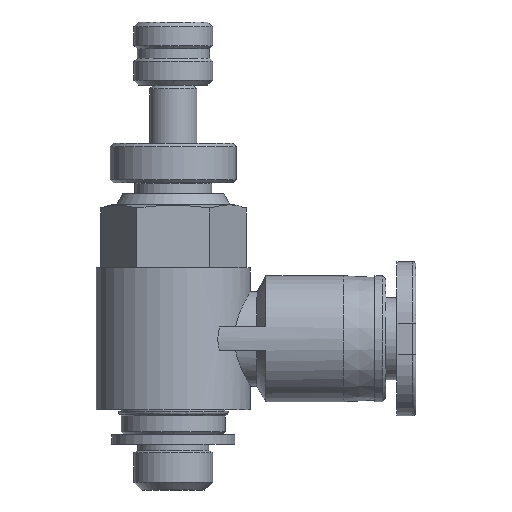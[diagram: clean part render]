
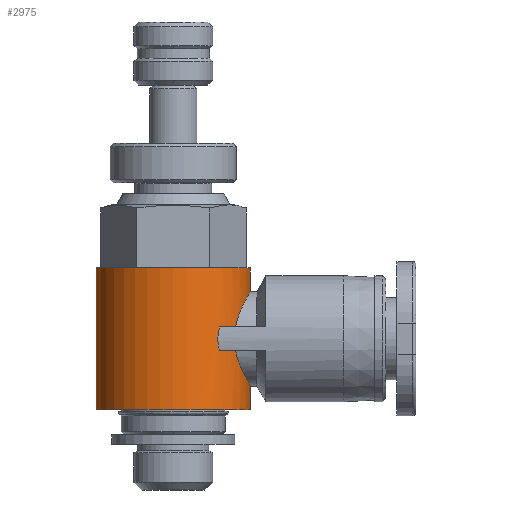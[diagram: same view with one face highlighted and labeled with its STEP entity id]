
A CAD part, front view. The second image highlights one B-rep face of the part: STEP entity #2975.
In plain terms, the highlighted cylindrical face has radius 4.9 mm (diameter 9.8 mm), a partial arc.
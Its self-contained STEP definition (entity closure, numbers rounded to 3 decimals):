
#57 = CARTESIAN_POINT ( 'NONE',  ( 4.856, -0.673, 6.672 ) ) ;
#146 = CARTESIAN_POINT ( 'NONE',  ( 4.83, -0.84, 12.485 ) ) ;
#161 = AXIS2_PLACEMENT_3D ( 'NONE', #1070, #1905, #287 ) ;
#166 = CARTESIAN_POINT ( 'NONE',  ( 4.43, -2.112, 11.756 ) ) ;
#203 = CARTESIAN_POINT ( 'NONE',  ( 4.483, -1.984, 7.344 ) ) ;
#238 = CARTESIAN_POINT ( 'NONE',  ( 4.891, -0.341, 6.615 ) ) ;
#284 = ORIENTED_EDGE ( 'NONE', *, *, #1775, .T. ) ;
#287 = DIRECTION ( 'NONE',  ( 1., 0., 0. ) ) ;
#293 = CARTESIAN_POINT ( 'NONE',  ( 4.9, 0., 6.6 ) ) ;
#310 = CARTESIAN_POINT ( 'NONE',  ( 4.9, -0.172, 6.6 ) ) ;
#311 = DIRECTION ( 'NONE',  ( 0., 0., 1. ) ) ;
#337 = CARTESIAN_POINT ( 'NONE',  ( -4.9, 0., 5.1 ) ) ;
#384 = EDGE_CURVE ( 'NONE', #634, #2983, #488, .T. ) ;
#433 = CARTESIAN_POINT ( 'NONE',  ( 4.891, -0.341, 12.585 ) ) ;
#449 = VERTEX_POINT ( 'NONE', #694 ) ;
#469 = ORIENTED_EDGE ( 'NONE', *, *, #1866, .T. ) ;
#470 = EDGE_CURVE ( 'NONE', #1180, #635, #2212, .T. ) ;
#488 = CIRCLE ( 'NONE', #2030, 4.9 ) ;
#518 = CARTESIAN_POINT ( 'NONE',  ( 2.928, -3.929, 8.85 ) ) ;
#519 = ORIENTED_EDGE ( 'NONE', *, *, #2734, .T. ) ;
#574 = CARTESIAN_POINT ( 'NONE',  ( 4.726, -1.304, 6.893 ) ) ;
#580 = LINE ( 'NONE', #1066, #2584 ) ;
#634 = VERTEX_POINT ( 'NONE', #1692 ) ;
#635 = VERTEX_POINT ( 'NONE', #1984 ) ;
#694 = CARTESIAN_POINT ( 'NONE',  ( 4.9, 0., 6.6 ) ) ;
#738 = CARTESIAN_POINT ( 'NONE',  ( 4.318, -2.319, 7.69 ) ) ;
#754 = LINE ( 'NONE', #2913, #2083 ) ;
#778 = CARTESIAN_POINT ( 'NONE',  ( 3.946, -2.905, 8.85 ) ) ;
#782 = VECTOR ( 'NONE', #311, 1000. ) ;
#805 = CARTESIAN_POINT ( 'NONE',  ( 0., 0., 5.1 ) ) ;
#821 = B_SPLINE_CURVE_WITH_KNOTS ( 'NONE', 3,
 ( #293, #310, #238, #57, #3204, #2395, #574, #3183, #1848, #203, #2828, #738, #1142, #2104, #2582, #3123, #831, #2424 ),
 .UNSPECIFIED., .F., .F.,
 ( 4, 2, 2, 2, 2, 2, 2, 2, 4 ),
 ( 0., 0.001, 0.001, 0.002, 0.002, 0.003, 0.003, 0.004, 0.004 ),
 .UNSPECIFIED. ) ;
#831 = CARTESIAN_POINT ( 'NONE',  ( 3.977, -2.862, 8.686 ) ) ;
#871 = CARTESIAN_POINT ( 'NONE',  ( 4.9, 0., 14.1 ) ) ;
#894 = CIRCLE ( 'NONE', #2542, 4.9 ) ;
#917 = EDGE_CURVE ( 'NONE', #1309, #635, #2973, .T. ) ;
#943 = CARTESIAN_POINT ( 'NONE',  ( 4.9, 0., 12.6 ) ) ;
#952 = DIRECTION ( 'NONE',  ( 1., 0., 0. ) ) ;
#961 = DIRECTION ( 'NONE',  ( 0., 0., -1. ) ) ;
#962 = CARTESIAN_POINT ( 'NONE',  ( 3.946, -2.905, 10.35 ) ) ;
#1003 = CARTESIAN_POINT ( 'NONE',  ( 0., 0., 14.1 ) ) ;
#1047 = ORIENTED_EDGE ( 'NONE', *, *, #384, .F. ) ;
#1066 = CARTESIAN_POINT ( 'NONE',  ( 4.9, 0., 5.1 ) ) ;
#1070 = CARTESIAN_POINT ( 'NONE',  ( 0., 0., 5.1 ) ) ;
#1096 = CARTESIAN_POINT ( 'NONE',  ( 2.928, -3.929, 8.85 ) ) ;
#1114 = CARTESIAN_POINT ( 'NONE',  ( 2.865, -3.976, 9.094 ) ) ;
#1126 = CARTESIAN_POINT ( 'NONE',  ( 2.83, -4., 9.346 ) ) ;
#1142 = CARTESIAN_POINT ( 'NONE',  ( 4.262, -2.42, 7.819 ) ) ;
#1180 = VERTEX_POINT ( 'NONE', #3346 ) ;
#1209 = CARTESIAN_POINT ( 'NONE',  ( 4.103, -2.687, 10.974 ) ) ;
#1284 = DIRECTION ( 'NONE',  ( 1., 0., 0. ) ) ;
#1309 = VERTEX_POINT ( 'NONE', #871 ) ;
#1323 = DIRECTION ( 'NONE',  ( 0., 0., 1. ) ) ;
#1326 = CARTESIAN_POINT ( 'NONE',  ( 2.928, -3.929, 10.35 ) ) ;
#1327 = CARTESIAN_POINT ( 'NONE',  ( 0., 0., 10.35 ) ) ;
#1338 = CARTESIAN_POINT ( 'NONE',  ( 2.83, -4., 9.857 ) ) ;
#1341 = DIRECTION ( 'NONE',  ( 0., 0., -1. ) ) ;
#1381 = CARTESIAN_POINT ( 'NONE',  ( 2.865, -3.976, 10.106 ) ) ;
#1391 = DIRECTION ( 'NONE',  ( 0., 0., 1. ) ) ;
#1438 = CYLINDRICAL_SURFACE ( 'NONE', #161, 4.9 ) ;
#1439 = DIRECTION ( 'NONE',  ( 1., 0., 0. ) ) ;
#1448 = B_SPLINE_CURVE_WITH_KNOTS ( 'NONE', 3,
 ( #1326, #1381, #1338, #1126, #1114, #1096 ),
 .UNSPECIFIED., .F., .F.,
 ( 4, 2, 4 ),
 ( 0., 0.001, 0.002 ),
 .UNSPECIFIED. ) ;
#1461 = CARTESIAN_POINT ( 'NONE',  ( 4.732, -1.313, 12.318 ) ) ;
#1466 = EDGE_CURVE ( 'NONE', #1180, #2434, #1484, .T. ) ;
#1484 = CIRCLE ( 'NONE', #2058, 4.9 ) ;
#1494 = CARTESIAN_POINT ( 'NONE',  ( 4.64, -1.599, 12.159 ) ) ;
#1497 = ORIENTED_EDGE ( 'NONE', *, *, #2177, .T. ) ;
#1556 = VERTEX_POINT ( 'NONE', #3079 ) ;
#1588 = DIRECTION ( 'NONE',  ( 0., 0., 1. ) ) ;
#1635 = CARTESIAN_POINT ( 'NONE',  ( 4.9, 0., 5.1 ) ) ;
#1692 = CARTESIAN_POINT ( 'NONE',  ( 3.946, -2.905, 10.35 ) ) ;
#1744 = EDGE_CURVE ( 'NONE', #2983, #2077, #1448, .T. ) ;
#1760 = CARTESIAN_POINT ( 'NONE',  ( 4.9, -0.172, 12.6 ) ) ;
#1775 = EDGE_CURVE ( 'NONE', #449, #3394, #821, .T. ) ;
#1848 = CARTESIAN_POINT ( 'NONE',  ( 4.587, -1.729, 7.143 ) ) ;
#1866 = EDGE_CURVE ( 'NONE', #1556, #1309, #580, .T. ) ;
#1905 = DIRECTION ( 'NONE',  ( 0., 0., 1. ) ) ;
#1984 = CARTESIAN_POINT ( 'NONE',  ( -4.9, 0., 14.1 ) ) ;
#2030 = AXIS2_PLACEMENT_3D ( 'NONE', #1327, #1341, #1439 ) ;
#2058 = AXIS2_PLACEMENT_3D ( 'NONE', #805, #1323, #1284 ) ;
#2077 = VERTEX_POINT ( 'NONE', #518 ) ;
#2083 = VECTOR ( 'NONE', #1391, 1000. ) ;
#2104 = CARTESIAN_POINT ( 'NONE',  ( 4.157, -2.597, 8.089 ) ) ;
#2177 = EDGE_CURVE ( 'NONE', #634, #1556, #3358, .T. ) ;
#2212 = LINE ( 'NONE', #337, #782 ) ;
#2270 = DIRECTION ( 'NONE',  ( 0., 0., 1. ) ) ;
#2310 = ORIENTED_EDGE ( 'NONE', *, *, #470, .F. ) ;
#2395 = CARTESIAN_POINT ( 'NONE',  ( 4.765, -1.154, 6.826 ) ) ;
#2424 = CARTESIAN_POINT ( 'NONE',  ( 3.946, -2.905, 8.85 ) ) ;
#2434 = VERTEX_POINT ( 'NONE', #1635 ) ;
#2442 = ORIENTED_EDGE ( 'NONE', *, *, #917, .T. ) ;
#2542 = AXIS2_PLACEMENT_3D ( 'NONE', #3256, #2270, #3235 ) ;
#2582 = CARTESIAN_POINT ( 'NONE',  ( 4.107, -2.674, 8.23 ) ) ;
#2584 = VECTOR ( 'NONE', #1588, 1000. ) ;
#2734 = EDGE_CURVE ( 'NONE', #2434, #449, #754, .T. ) ;
#2793 = CARTESIAN_POINT ( 'NONE',  ( 4.009, -2.82, 10.678 ) ) ;
#2811 = FACE_OUTER_BOUND ( 'NONE', #3335, .T. ) ;
#2828 = CARTESIAN_POINT ( 'NONE',  ( 4.428, -2.102, 7.453 ) ) ;
#2899 = ORIENTED_EDGE ( 'NONE', *, *, #1466, .T. ) ;
#2911 = CARTESIAN_POINT ( 'NONE',  ( 2.928, -3.929, 10.35 ) ) ;
#2913 = CARTESIAN_POINT ( 'NONE',  ( 4.9, 0., 5.1 ) ) ;
#2933 = EDGE_CURVE ( 'NONE', #2077, #3394, #894, .T. ) ;
#2973 = CIRCLE ( 'NONE', #3300, 4.9 ) ;
#2975 = ADVANCED_FACE ( '60', ( #2811 ), #1438, .T. ) ;
#2983 = VERTEX_POINT ( 'NONE', #2911 ) ;
#3043 = CARTESIAN_POINT ( 'NONE',  ( 4.856, -0.674, 12.528 ) ) ;
#3079 = CARTESIAN_POINT ( 'NONE',  ( 4.9, 0., 12.6 ) ) ;
#3123 = CARTESIAN_POINT ( 'NONE',  ( 4.017, -2.807, 8.529 ) ) ;
#3147 = ORIENTED_EDGE ( 'NONE', *, *, #1744, .F. ) ;
#3183 = CARTESIAN_POINT ( 'NONE',  ( 4.637, -1.591, 7.052 ) ) ;
#3204 = CARTESIAN_POINT ( 'NONE',  ( 4.831, -0.837, 6.714 ) ) ;
#3235 = DIRECTION ( 'NONE',  ( 1., 0., 0. ) ) ;
#3240 = ORIENTED_EDGE ( 'NONE', *, *, #2933, .F. ) ;
#3256 = CARTESIAN_POINT ( 'NONE',  ( 0., 0., 8.85 ) ) ;
#3282 = CARTESIAN_POINT ( 'NONE',  ( 4.316, -2.329, 11.519 ) ) ;
#3300 = AXIS2_PLACEMENT_3D ( 'NONE', #1003, #961, #952 ) ;
#3335 = EDGE_LOOP ( 'NONE', ( #2310, #2899, #519, #284, #3240, #3147, #1047, #1497, #469, #2442 ) ) ;
#3346 = CARTESIAN_POINT ( 'NONE',  ( -4.9, 0., 5.1 ) ) ;
#3358 = B_SPLINE_CURVE_WITH_KNOTS ( 'NONE', 3,
 ( #962, #2793, #1209, #3282, #166, #1494, #1461, #146, #3043, #433, #1760, #943 ),
 .UNSPECIFIED., .F., .F.,
 ( 4, 2, 2, 2, 2, 4 ),
 ( 0., 0.001, 0.002, 0.003, 0.004, 0.004 ),
 .UNSPECIFIED. ) ;
#3394 = VERTEX_POINT ( 'NONE', #778 ) ;
